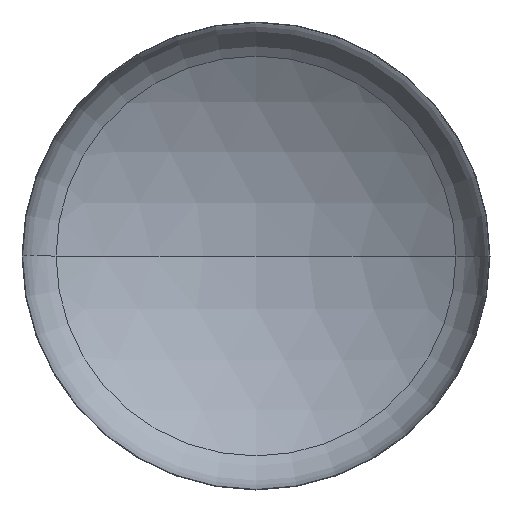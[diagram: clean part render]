
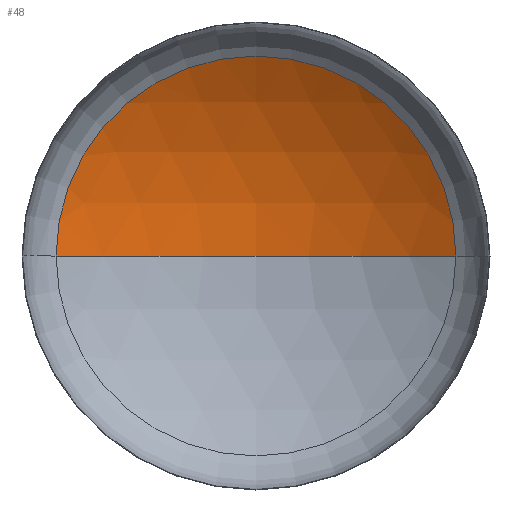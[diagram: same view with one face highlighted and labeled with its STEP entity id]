
A CAD part, front view. The second image highlights one B-rep face of the part: STEP entity #48.
In plain terms, the highlighted spherical face has radius 5200 mm.
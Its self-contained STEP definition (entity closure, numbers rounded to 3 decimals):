
#9 = DIRECTION ( 'NONE',  ( -1., 0., 0. ) ) ;
#20 = CIRCLE ( 'NONE', #240, 2777.048 ) ;
#37 = ORIENTED_EDGE ( 'NONE', *, *, #172, .T. ) ;
#48 = ADVANCED_FACE ( 'NONE', ( #262 ), #386, .F. ) ;
#66 = CARTESIAN_POINT ( 'NONE',  ( 0., 1674.092, 0. ) ) ;
#73 = AXIS2_PLACEMENT_3D ( 'NONE', #360, #208, #344 ) ;
#82 = CARTESIAN_POINT ( 'NONE',  ( 0., -3525.908, 0. ) ) ;
#89 = DIRECTION ( 'NONE',  ( 0., -1., 0. ) ) ;
#90 = VERTEX_POINT ( 'NONE', #66 ) ;
#105 = CARTESIAN_POINT ( 'NONE',  ( 0., 870.454, 0. ) ) ;
#116 = EDGE_CURVE ( 'NONE', #90, #340, #164, .T. ) ;
#121 = CARTESIAN_POINT ( 'NONE',  ( 2777.048, 870.454, 0. ) ) ;
#125 = ORIENTED_EDGE ( 'NONE', *, *, #116, .F. ) ;
#128 = CARTESIAN_POINT ( 'NONE',  ( 0., -3525.908, 0. ) ) ;
#129 = EDGE_LOOP ( 'NONE', ( #125, #346, #37 ) ) ;
#134 = AXIS2_PLACEMENT_3D ( 'NONE', #82, #394, #9 ) ;
#149 = EDGE_CURVE ( 'NONE', #90, #178, #312, .T. ) ;
#162 = AXIS2_PLACEMENT_3D ( 'NONE', #128, #256, #236 ) ;
#164 = CIRCLE ( 'NONE', #162, 5200. ) ;
#172 = EDGE_CURVE ( 'NONE', #178, #340, #20, .T. ) ;
#178 = VERTEX_POINT ( 'NONE', #121 ) ;
#208 = DIRECTION ( 'NONE',  ( 0., 0., -1. ) ) ;
#222 = CARTESIAN_POINT ( 'NONE',  ( -2777.048, 870.454, 0. ) ) ;
#236 = DIRECTION ( 'NONE',  ( 1., 0., 0. ) ) ;
#240 = AXIS2_PLACEMENT_3D ( 'NONE', #105, #89, #326 ) ;
#256 = DIRECTION ( 'NONE',  ( 0., 0., 1. ) ) ;
#262 = FACE_OUTER_BOUND ( 'NONE', #129, .T. ) ;
#312 = CIRCLE ( 'NONE', #134, 5200. ) ;
#326 = DIRECTION ( 'NONE',  ( 1., 0., 0. ) ) ;
#340 = VERTEX_POINT ( 'NONE', #222 ) ;
#344 = DIRECTION ( 'NONE',  ( -1., 0., 0. ) ) ;
#346 = ORIENTED_EDGE ( 'NONE', *, *, #149, .T. ) ;
#360 = CARTESIAN_POINT ( 'NONE',  ( 0., -3525.908, 0. ) ) ;
#386 = SPHERICAL_SURFACE ( 'NONE', #73, 5200. ) ;
#394 = DIRECTION ( 'NONE',  ( 0., 0., -1. ) ) ;
